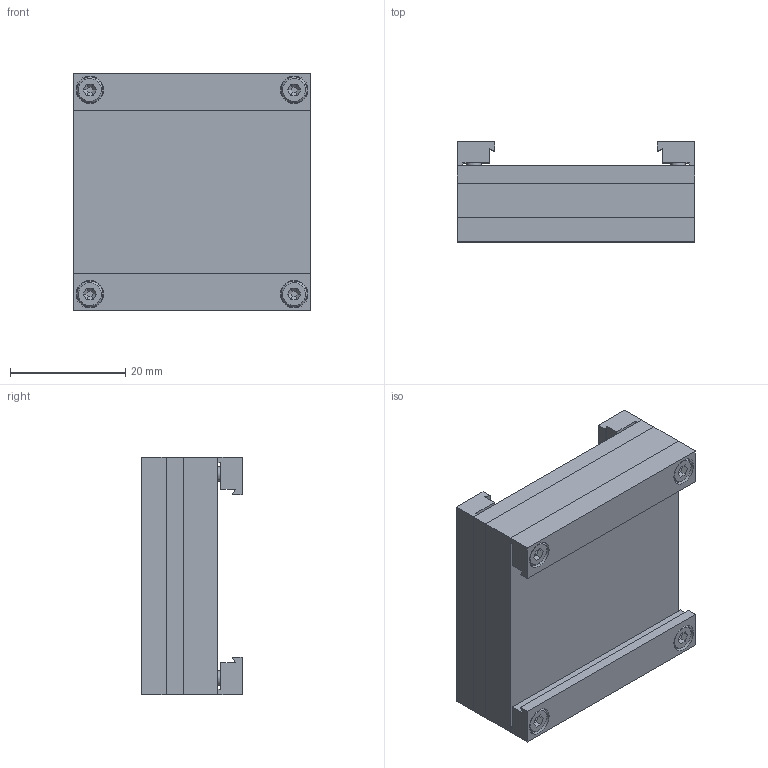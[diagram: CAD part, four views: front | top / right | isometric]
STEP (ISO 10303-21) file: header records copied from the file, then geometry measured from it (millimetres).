
FILE_DESCRIPTION (( 'STEP AP214' ), '1' );
FILE_NAME ('Dreheinheit dL 30.STEP', '2007-05-10T09:30:51', ( '' ), ( '' ), 'SwSTEP 2.0', 'SolidWorks 2006040', '' );
FILE_SCHEMA (( 'AUTOMOTIVE_DESIGN' ));
Length unit declared in the file: millimetre
Products named in the file (5): Dreheinheit dL 30; SC-912_M 2,5 x 4; Dreheinheit_30-+-D028780_ _PDB_526810; SC-912_M 2,5 x 5; Klemmleiste_dL_50-+-D013680_ _PDB_051786
Assembly tree (13 placements, depth 2):
  Dreheinheit dL 30
    SC-912_M 2,5 x 5  x4
    Klemmleiste_dL_50-+-D013680_ _PDB_051786  x4
    SC-912_M 2,5 x 4  x4
    Dreheinheit_30-+-D028780_ _PDB_526810
Bounding box: 41.2 x 17.4 x 41.2 mm (x, y, z)
Volume: 18877.4 mm3; surface area: 10045.9 mm2
Topology: 13 solids, 13 shells, 306 faces, 668 edges, 412 vertices
Faces by surface type: plane 186, cylinder 72, cone 32, torus 16
Entity records: 2802 total; most frequent: DIRECTION 476, CARTESIAN_POINT 430, ORIENTED_EDGE 400, EDGE_CURVE 200, AXIS2_PLACEMENT_3D 170, LINE 136, VECTOR 136, VERTEX_POINT 124
